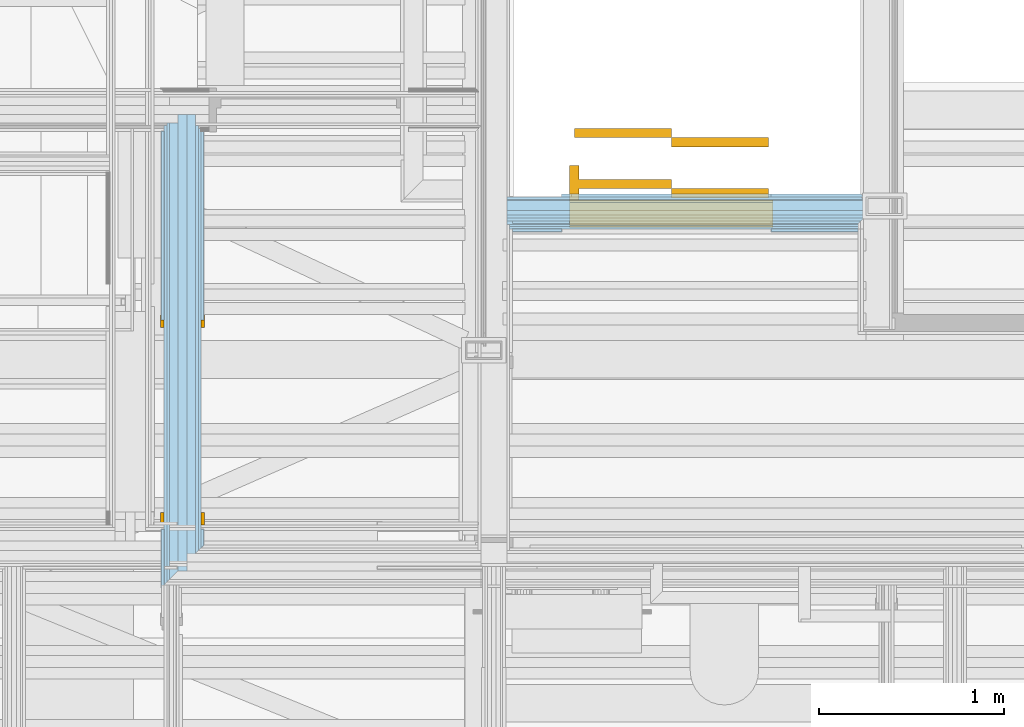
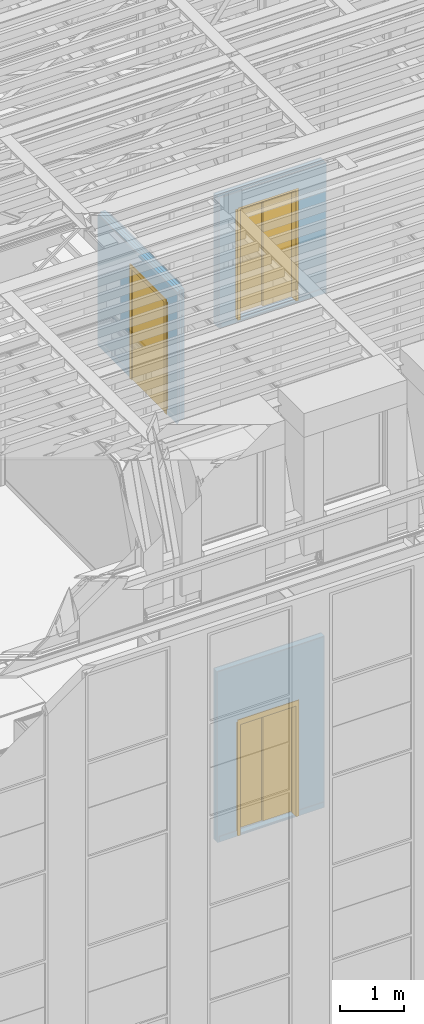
# One storey, part 101 of 183: 3 doors, 3 openings, 3 elements without a shape of their own, plus 21 elements that do not belong to this part.
"""IFC2X3 building model written with IfcOpenShell, lengths in metres."""

from ifc_helpers import new_model, entity, si_unit, converted_unit, derived_unit, money_unit, direction, frame, frame_2d, origin_with_axes, place, context, subcontext, project, spatial, polyline, rectangle, outline, extrude, faceted_brep, material, type_object, element, fill, aggregate, save


model = new_model("IFC2X3")

# Units and contexts
model_context = context("Model", 3, precision=1e-05, world=origin_with_axes(), true_north=direction((0.0, 1.0)))
body_context = subcontext(model_context, "Body", "Model", "MODEL_VIEW", scale=1.0)
ifc_project = project(units=[si_unit("LENGTHUNIT", "METRE"), si_unit("AREAUNIT", "SQUARE_METRE"), si_unit("VOLUMEUNIT", "CUBIC_METRE"), si_unit("ABSORBEDDOSEUNIT", "GRAY"), si_unit("AMOUNTOFSUBSTANCEUNIT", "MOLE"), si_unit("DOSEEQUIVALENTUNIT", "SIEVERT"), si_unit("ELECTRICCAPACITANCEUNIT", "FARAD"), si_unit("ELECTRICCHARGEUNIT", "COULOMB"), si_unit("ELECTRICCONDUCTANCEUNIT", "SIEMENS"), si_unit("ELECTRICCURRENTUNIT", "AMPERE"), si_unit("ELECTRICRESISTANCEUNIT", "OHM"), si_unit("ELECTRICVOLTAGEUNIT", "VOLT"), si_unit("ENERGYUNIT", "JOULE"), si_unit("FORCEUNIT", "NEWTON"), si_unit("FREQUENCYUNIT", "HERTZ"), si_unit("ILLUMINANCEUNIT", "LUX"), si_unit("INDUCTANCEUNIT", "HENRY"), si_unit("LUMINOUSFLUXUNIT", "LUMEN"), si_unit("LUMINOUSINTENSITYUNIT", "CANDELA"), si_unit("MAGNETICFLUXDENSITYUNIT", "TESLA"), si_unit("MAGNETICFLUXUNIT", "WEBER"), si_unit("MASSUNIT", "GRAM"), converted_unit("PLANEANGLEUNIT", "degree", entity("IfcReal", 0.0174532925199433), si_unit("PLANEANGLEUNIT", "RADIAN"), dimensions=[0, 0, 0, 0, 0, 0, 0]), si_unit("POWERUNIT", "WATT"), si_unit("PRESSUREUNIT", "PASCAL"), si_unit("RADIOACTIVITYUNIT", "BECQUEREL"), si_unit("SOLIDANGLEUNIT", "STERADIAN"), si_unit("THERMODYNAMICTEMPERATUREUNIT", "KELVIN"), si_unit("TIMEUNIT", "SECOND"), derived_unit("ACCELERATIONUNIT", [(si_unit("LENGTHUNIT", "METRE"), 1), (si_unit("TIMEUNIT", "SECOND"), -2)]), derived_unit("ANGULARVELOCITYUNIT", [(converted_unit("PLANEANGLEUNIT", "degree", entity("IfcReal", 0.0174532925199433), si_unit("PLANEANGLEUNIT", "RADIAN"), dimensions=[0, 0, 0, 0, 0, 0, 0]), 1), (si_unit("TIMEUNIT", "SECOND"), -1)]), derived_unit("CURVATUREUNIT", [(converted_unit("PLANEANGLEUNIT", "degree", entity("IfcReal", 0.0174532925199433), si_unit("PLANEANGLEUNIT", "RADIAN"), dimensions=[0, 0, 0, 0, 0, 0, 0]), 1), (si_unit("LENGTHUNIT", "METRE"), -1)]), derived_unit("DYNAMICVISCOSITYUNIT", [(si_unit("PRESSUREUNIT", "PASCAL"), 1), (si_unit("TIMEUNIT", "SECOND"), 1)]), derived_unit("HEATFLUXDENSITYUNIT", [(si_unit("POWERUNIT", "WATT"), 1), (si_unit("LENGTHUNIT", "METRE"), -2)]), derived_unit("HEATINGVALUEUNIT", [(si_unit("ENERGYUNIT", "JOULE"), 1), (si_unit("MASSUNIT", "GRAM"), -1)]), derived_unit("INTEGERCOUNTRATEUNIT", [(si_unit("TIMEUNIT", "SECOND"), -1)]), derived_unit("IONCONCENTRATIONUNIT", [(si_unit("MASSUNIT", "GRAM"), 1), (si_unit("VOLUMEUNIT", "CUBIC_METRE"), -1)]), derived_unit("ISOTHERMALMOISTURECAPACITYUNIT", [(si_unit("VOLUMEUNIT", "CUBIC_METRE"), 1), (si_unit("MASSUNIT", "GRAM"), -1)]), derived_unit("KINEMATICVISCOSITYUNIT", [(si_unit("AREAUNIT", "SQUARE_METRE"), 1), (si_unit("TIMEUNIT", "SECOND"), -1)]), derived_unit("LINEARFORCEUNIT", [(si_unit("FORCEUNIT", "NEWTON"), 1), (si_unit("LENGTHUNIT", "METRE"), -1)]), derived_unit("LINEARMOMENTUNIT", [(si_unit("FORCEUNIT", "NEWTON"), 1), (si_unit("LENGTHUNIT", "METRE"), -1)]), derived_unit("LINEARSTIFFNESSUNIT", [(si_unit("FORCEUNIT", "NEWTON"), 1), (si_unit("LENGTHUNIT", "METRE"), -1)]), derived_unit("LINEARVELOCITYUNIT", [(si_unit("LENGTHUNIT", "METRE"), 1), (si_unit("TIMEUNIT", "SECOND"), -1)]), derived_unit("LUMINOUSINTENSITYDISTRIBUTIONUNIT", [(si_unit("LUMINOUSINTENSITYUNIT", "CANDELA"), 1), (si_unit("LUMINOUSFLUXUNIT", "LUMEN"), -1)]), derived_unit("MASSDENSITYUNIT", [(si_unit("MASSUNIT", "GRAM"), 1), (si_unit("VOLUMEUNIT", "CUBIC_METRE"), -1)]), derived_unit("MASSFLOWRATEUNIT", [(si_unit("MASSUNIT", "GRAM"), 1), (si_unit("TIMEUNIT", "SECOND"), -1)]), derived_unit("MASSPERLENGTHUNIT", [(si_unit("MASSUNIT", "GRAM"), 1), (si_unit("LENGTHUNIT", "METRE"), -1)]), derived_unit("MODULUSOFELASTICITYUNIT", [(si_unit("FORCEUNIT", "NEWTON"), 1), (si_unit("AREAUNIT", "SQUARE_METRE"), -1)]), derived_unit("MODULUSOFLINEARSUBGRADEREACTIONUNIT", [(si_unit("FORCEUNIT", "NEWTON"), 1), (si_unit("LENGTHUNIT", "METRE"), -2)]), derived_unit("MODULUSOFROTATIONALSUBGRADEREACTIONUNIT", [(si_unit("FORCEUNIT", "NEWTON"), 1), (si_unit("LENGTHUNIT", "METRE"), 1)]), derived_unit("MODULUSOFSUBGRADEREACTIONUNIT", [(si_unit("FORCEUNIT", "NEWTON"), 1), (si_unit("VOLUMEUNIT", "CUBIC_METRE"), -1)]), derived_unit("MOISTUREDIFFUSIVITYUNIT", [(si_unit("VOLUMEUNIT", "CUBIC_METRE"), 1), (si_unit("TIMEUNIT", "SECOND"), -1)]), derived_unit("MOLECULARWEIGHTUNIT", [(si_unit("MASSUNIT", "GRAM"), 1), (si_unit("AMOUNTOFSUBSTANCEUNIT", "MOLE"), -1)]), derived_unit("PLANARFORCEUNIT", [(si_unit("FORCEUNIT", "NEWTON"), 1), (si_unit("LENGTHUNIT", "METRE"), -2)]), derived_unit("ROTATIONALFREQUENCYUNIT", [(si_unit("TIMEUNIT", "SECOND"), -1)]), derived_unit("ROTATIONALMASSUNIT", [(si_unit("MASSUNIT", "GRAM"), 1), (si_unit("LENGTHUNIT", "METRE"), 2)]), derived_unit("ROTATIONALSTIFFNESSUNIT", [(si_unit("FORCEUNIT", "NEWTON"), 1), (si_unit("LENGTHUNIT", "METRE"), 1), (converted_unit("PLANEANGLEUNIT", "degree", entity("IfcReal", 0.0174532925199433), si_unit("PLANEANGLEUNIT", "RADIAN"), dimensions=[0, 0, 0, 0, 0, 0, 0]), -1)]), derived_unit("SECTIONAREAINTEGRALUNIT", [(si_unit("LENGTHUNIT", "METRE"), 5)]), derived_unit("SECTIONMODULUSUNIT", [(si_unit("LENGTHUNIT", "METRE"), 3)]), derived_unit("SHEARMODULUSUNIT", [(si_unit("FORCEUNIT", "NEWTON"), 1), (si_unit("AREAUNIT", "SQUARE_METRE"), -1)]), derived_unit("SOUNDPOWERUNIT", [(si_unit("ENERGYUNIT", "JOULE"), 1), (si_unit("TIMEUNIT", "SECOND"), -1)]), derived_unit("SPECIFICHEATCAPACITYUNIT", [(si_unit("FORCEUNIT", "NEWTON"), 1), (si_unit("MASSUNIT", "GRAM"), -1), (si_unit("THERMODYNAMICTEMPERATUREUNIT", "KELVIN"), -1)]), derived_unit("TEMPERATUREGRADIENTUNIT", [(si_unit("THERMODYNAMICTEMPERATUREUNIT", "KELVIN"), 1), (si_unit("LENGTHUNIT", "METRE"), -1)]), derived_unit("THERMALADMITTANCEUNIT", [(si_unit("POWERUNIT", "WATT"), 1), (si_unit("AREAUNIT", "SQUARE_METRE"), -1), (si_unit("THERMODYNAMICTEMPERATUREUNIT", "KELVIN"), -1)]), derived_unit("THERMALCONDUCTANCEUNIT", [(si_unit("POWERUNIT", "WATT"), 1), (si_unit("LENGTHUNIT", "METRE"), -1), (si_unit("THERMODYNAMICTEMPERATUREUNIT", "KELVIN"), -1)]), derived_unit("THERMALEXPANSIONCOEFFICIENTUNIT", [(si_unit("THERMODYNAMICTEMPERATUREUNIT", "KELVIN"), -1)]), derived_unit("THERMALRESISTANCEUNIT", [(si_unit("AREAUNIT", "SQUARE_METRE"), 1), (si_unit("POWERUNIT", "WATT"), -1)]), derived_unit("THERMALTRANSMITTANCEUNIT", [(si_unit("POWERUNIT", "WATT"), 1), (si_unit("AREAUNIT", "SQUARE_METRE"), -1), (si_unit("THERMODYNAMICTEMPERATUREUNIT", "KELVIN"), -1)]), derived_unit("TORQUEUNIT", [(si_unit("FORCEUNIT", "NEWTON"), 1), (si_unit("LENGTHUNIT", "METRE"), 1)]), derived_unit("VAPORPERMEABILITYUNIT", [(si_unit("MASSUNIT", "GRAM"), 1), (si_unit("TIMEUNIT", "SECOND"), -1)]), derived_unit("VOLUMETRICFLOWRATEUNIT", [(si_unit("VOLUMEUNIT", "CUBIC_METRE"), 1), (si_unit("TIMEUNIT", "SECOND"), -1)]), derived_unit("WARPINGCONSTANTUNIT", [(si_unit("LENGTHUNIT", "METRE"), 6)]), derived_unit("WARPINGMOMENTUNIT", [(si_unit("FORCEUNIT", "NEWTON"), 1), (si_unit("LENGTHUNIT", "METRE"), 2)]), money_unit("GBP")], contexts=[model_context])

# Site, building, storey, space
site_placement = place(None, origin_with_axes())
site = spatial("IfcSite", under=ifc_project, at=site_placement, Name="Site", CompositionType="ELEMENT")
building_placement = place(site_placement, origin_with_axes())
building = spatial("IfcBuilding", under=site, at=building_placement, Name="Building01", CompositionType="ELEMENT")
storey_placement = place(building_placement, frame((0.0, 0.0, 5.15), z_axis=(0.0, 0.0, 1.0), x_axis=(1.0, 0.0, 0.0)))
storey = spatial("IfcBuildingStorey", under=building, at=storey_placement, Name="1F", CompositionType="ELEMENT", Elevation=5.15)
space_1_placement = place(storey_placement, frame((9.548928, 7.163933, 0.017932), z_axis=(0.0, 0.0, 1.0), x_axis=(1.0, 0.0, 0.0)))
space_1 = spatial("IfcSpace", under=storey, at=space_1_placement, Name="firef. LIFT", CompositionType="ELEMENT", InteriorOrExteriorSpace="NOTDEFINED")

# Door
ifc_material_1 = material(Name="A_BSUK_Doors")
door_style_1 = type_object("IfcDoorStyle", Name="A-ElevatorDoor-2Speed", ConstructionType="USERDEFINED", OperationType="USERDEFINED", ParameterTakesPrecedence=False, Sizeable=False)
wall_1_placement = place(storey_placement, frame((11.145, 6.965, 0.0), z_axis=(0.0, 0.0, 1.0), x_axis=(-1.0, 0.0, 0.0)))
opening_1_placement = place(wall_1_placement, frame((0.5, -0.03, 0.03), z_axis=(0.0, 0.0, 1.0), x_axis=(1.0, 0.0, 0.0)))
door_1_placement = place(opening_1_placement, frame((1.04, 0.17, 0.0), z_axis=(0.0, 0.0, 1.0), x_axis=(-1.0, 0.0, 0.0)))
door_1 = element("IfcDoor", 1, at=door_1_placement, inside=space_1, type_object=door_style_1, material=ifc_material_1, Name="A-ElevatorDoor-2Speed", ObjectType="A-ElevatorDoor-2Speed", OverallHeight=2.14000000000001, OverallWidth=1.13330201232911, context=body_context, shape_type="Brep", body=[
    faceted_brep([(1.05, 0.0, 0.0), (1.05, 0.0, 2.1), (1.05, -0.012, 2.1), (1.05, -0.012, 0.0), (1.0, -0.012, 0.0), (1.0, -0.012, 2.1), (1.0, 0.137, 2.1), (1.0, 0.137, 0.0), (1.05, 0.137, 2.1), (1.05, 0.137, 0.0), (1.05, 0.125, 2.1), (1.05, 0.125, 0.0), (1.04, 0.125, 2.1), (1.04, 0.125, 0.0), (1.04, 0.0, 2.1), (1.04, 0.0, 0.0)], [[[0, 1, 2, 3]], [[4, 5, 6, 7]], [[7, 6, 8, 9]], [[9, 8, 10, 11]], [[11, 10, 12, 13]], [[13, 12, 14, 15]], [[15, 14, 1, 0]], [[3, 4, 7, 9, 11, 13, 15, 0]], [[3, 2, 5, 4]], [[1, 14, 12, 10, 8, 6, 5, 2]]]),
    faceted_brep([(1.05, 0.0, 2.2), (-0.05, 0.0, 2.2), (-0.05, -0.012, 2.2), (1.05, -0.012, 2.2), (1.05, -0.012, 2.1), (-0.05, -0.012, 2.1), (-0.05, 0.137, 2.1), (1.05, 0.137, 2.1), (-0.05, 0.137, 2.2), (1.05, 0.137, 2.2), (-0.05, 0.125, 2.2), (1.05, 0.125, 2.2), (-0.05, 0.125, 2.14), (1.05, 0.125, 2.14), (-0.05, 0.0, 2.14), (1.05, 0.0, 2.14)], [[[0, 1, 2, 3]], [[4, 5, 6, 7]], [[7, 6, 8, 9]], [[9, 8, 10, 11]], [[11, 10, 12, 13]], [[13, 12, 14, 15]], [[15, 14, 1, 0]], [[3, 4, 7, 9, 11, 13, 15, 0]], [[3, 2, 5, 4]], [[1, 14, 12, 10, 8, 6, 5, 2]]]),
    faceted_brep([(-0.05, 0.0, 2.1), (-0.05, 0.0, 0.0), (-0.05, -0.012, 0.0), (-0.05, -0.012, 2.1), (0.0, -0.012, 2.1), (0.0, -0.012, 0.0), (0.0, 0.137, 0.0), (0.0, 0.137, 2.1), (-0.05, 0.137, 0.0), (-0.05, 0.137, 2.1), (-0.05, 0.125, 0.0), (-0.05, 0.125, 2.1), (-0.04, 0.125, 0.0), (-0.04, 0.125, 2.1), (-0.04, 0.0, 0.0), (-0.04, 0.0, 2.1)], [[[0, 1, 2, 3]], [[4, 5, 6, 7]], [[7, 6, 8, 9]], [[9, 8, 10, 11]], [[11, 10, 12, 13]], [[13, 12, 14, 15]], [[15, 14, 1, 0]], [[3, 4, 7, 9, 11, 13, 15, 0]], [[3, 2, 5, 4]], [[1, 14, 12, 10, 8, 6, 5, 2]]]),
    faceted_brep([(-0.025, 0.25, 2.125), (-0.025, 0.2, 2.125), (0.5, 0.2, 2.125), (0.5, 0.25, 2.125), (0.5, 0.25, -0.025), (0.5, 0.2, -0.025), (-0.025, 0.2, -0.025), (-0.025, 0.25, -0.025)], [[[0, 1, 2, 3]], [[4, 5, 6, 7]], [[7, 6, 1, 0]], [[3, 4, 7, 0]], [[3, 2, 5, 4]], [[1, 6, 5, 2]]]),
    faceted_brep([(-0.025, 0.5254, 2.125), (-0.025, 0.4754, 2.125), (0.5, 0.4754, 2.125), (0.5, 0.5254, 2.125), (0.5, 0.5254, -0.0594), (0.5, 0.4754, -0.0594), (-0.025, 0.4754, -0.0594), (-0.025, 0.5254, -0.0594)], [[[0, 1, 2, 3]], [[4, 5, 6, 7]], [[7, 6, 1, 0]], [[3, 4, 7, 0]], [[3, 2, 5, 4]], [[1, 6, 5, 2]]]),
    faceted_brep([(1.025, 0.4254, 2.125), (1.025, 0.4754, 2.125), (0.5, 0.4754, 2.125), (0.5, 0.4254, 2.125), (0.5, 0.4254, -0.025), (0.5, 0.4754, -0.025), (1.025, 0.4754, -0.025), (1.025, 0.4254, -0.025)], [[[0, 1, 2, 3]], [[4, 5, 6, 7]], [[7, 6, 1, 0]], [[3, 4, 7, 0]], [[3, 2, 5, 4]], [[1, 6, 5, 2]]]),
    faceted_brep([(1.025, 0.15, 2.125), (1.025, 0.2, 2.125), (0.5, 0.2, 2.125), (0.5, 0.15, 2.125), (0.5, 0.15, -0.025), (0.5, 0.2, -0.025), (1.025, 0.2, -0.025), (1.025, 0.15, -0.025)], [[[0, 1, 2, 3]], [[4, 5, 6, 7]], [[7, 6, 1, 0]], [[3, 4, 7, 0]], [[3, 2, 5, 4]], [[1, 6, 5, 2]]]),
    faceted_brep([(0.0, 0.137, 2.125), (0.0, 0.137, 0.0), (0.0, 0.3246, 0.0), (0.0, 0.3246, 2.125), (-0.05, 0.3246, 2.125), (-0.05, 0.3246, 0.0), (-0.05, 0.137, 0.0), (-0.05, 0.137, 2.125)], [[[0, 1, 2, 3]], [[4, 5, 6, 7]], [[7, 6, 1, 0]], [[3, 4, 7, 0]], [[3, 2, 5, 4]], [[1, 6, 5, 2]]]),
])

# Space
space_2_placement = place(storey_placement, frame((9.548928, 7.163933, 9.81), z_axis=(0.0, 0.0, 1.0), x_axis=(1.0, 0.0, 0.0)))
space_2 = spatial("IfcSpace", under=storey, at=space_2_placement, Name="firef. LIFT", CompositionType="ELEMENT", InteriorOrExteriorSpace="NOTDEFINED")

# Door
wall_3_placement = place(storey_placement, frame((11.145, 6.907, 9.78), z_axis=(0.0, 0.0, 1.0), x_axis=(-1.0, 0.0, 0.0)))
opening_3_placement = place(wall_3_placement, frame((0.5, -0.073, 0.015), z_axis=(0.0, 0.0, 1.0), x_axis=(1.0, 0.0, 0.0)))
door_2_placement = place(opening_3_placement, frame((1.04, 0.155, 0.015), z_axis=(0.0, 0.0, 1.0), x_axis=(-1.0, 0.0, 0.0)))
door_2 = element("IfcDoor", 2, at=door_2_placement, inside=space_2, type_object=door_style_1, material=ifc_material_1, Name="A-ElevatorDoor-2Speed", ObjectType="A-ElevatorDoor-2Speed", OverallHeight=2.155, OverallWidth=1.1333020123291, context=body_context, shape_type="Brep", body=[
    faceted_brep([(1.05, 0.0, 0.0), (1.05, 0.0, 2.1), (1.05, -0.012, 2.1), (1.05, -0.012, 0.0), (1.0, -0.012, 0.0), (1.0, -0.012, 2.1), (1.0, 0.137, 2.1), (1.0, 0.137, 0.0), (1.05, 0.137, 2.1), (1.05, 0.137, 0.0), (1.05, 0.125, 2.1), (1.05, 0.125, 0.0), (1.04, 0.125, 2.1), (1.04, 0.125, 0.0), (1.04, 0.0, 2.1), (1.04, 0.0, 0.0)], [[[0, 1, 2, 3]], [[4, 5, 6, 7]], [[7, 6, 8, 9]], [[9, 8, 10, 11]], [[11, 10, 12, 13]], [[13, 12, 14, 15]], [[15, 14, 1, 0]], [[3, 4, 7, 9, 11, 13, 15, 0]], [[3, 2, 5, 4]], [[1, 14, 12, 10, 8, 6, 5, 2]]]),
    faceted_brep([(1.05, 0.0, 2.2), (-0.05, 0.0, 2.2), (-0.05, -0.012, 2.2), (1.05, -0.012, 2.2), (1.05, -0.012, 2.1), (-0.05, -0.012, 2.1), (-0.05, 0.137, 2.1), (1.05, 0.137, 2.1), (-0.05, 0.137, 2.2), (1.05, 0.137, 2.2), (-0.05, 0.125, 2.2), (1.05, 0.125, 2.2), (-0.05, 0.125, 2.14), (1.05, 0.125, 2.14), (-0.05, 0.0, 2.14), (1.05, 0.0, 2.14)], [[[0, 1, 2, 3]], [[4, 5, 6, 7]], [[7, 6, 8, 9]], [[9, 8, 10, 11]], [[11, 10, 12, 13]], [[13, 12, 14, 15]], [[15, 14, 1, 0]], [[3, 4, 7, 9, 11, 13, 15, 0]], [[3, 2, 5, 4]], [[1, 14, 12, 10, 8, 6, 5, 2]]]),
    faceted_brep([(-0.05, 0.0, 2.1), (-0.05, 0.0, 0.0), (-0.05, -0.012, 0.0), (-0.05, -0.012, 2.1), (0.0, -0.012, 2.1), (0.0, -0.012, 0.0), (0.0, 0.137, 0.0), (0.0, 0.137, 2.1), (-0.05, 0.137, 0.0), (-0.05, 0.137, 2.1), (-0.05, 0.125, 0.0), (-0.05, 0.125, 2.1), (-0.04, 0.125, 0.0), (-0.04, 0.125, 2.1), (-0.04, 0.0, 0.0), (-0.04, 0.0, 2.1)], [[[0, 1, 2, 3]], [[4, 5, 6, 7]], [[7, 6, 8, 9]], [[9, 8, 10, 11]], [[11, 10, 12, 13]], [[13, 12, 14, 15]], [[15, 14, 1, 0]], [[3, 4, 7, 9, 11, 13, 15, 0]], [[3, 2, 5, 4]], [[1, 14, 12, 10, 8, 6, 5, 2]]]),
    faceted_brep([(-0.025, 0.25, 2.125), (-0.025, 0.2, 2.125), (0.5, 0.2, 2.125), (0.5, 0.25, 2.125), (0.5, 0.25, -0.025), (0.5, 0.2, -0.025), (-0.025, 0.2, -0.025), (-0.025, 0.25, -0.025)], [[[0, 1, 2, 3]], [[4, 5, 6, 7]], [[7, 6, 1, 0]], [[3, 4, 7, 0]], [[3, 2, 5, 4]], [[1, 6, 5, 2]]]),
    faceted_brep([(-0.025, 0.5254, 2.125), (-0.025, 0.4754, 2.125), (0.5, 0.4754, 2.125), (0.5, 0.5254, 2.125), (0.5, 0.5254, -0.0594), (0.5, 0.4754, -0.0594), (-0.025, 0.4754, -0.0594), (-0.025, 0.5254, -0.0594)], [[[0, 1, 2, 3]], [[4, 5, 6, 7]], [[7, 6, 1, 0]], [[3, 4, 7, 0]], [[3, 2, 5, 4]], [[1, 6, 5, 2]]]),
    faceted_brep([(1.025, 0.4254, 2.125), (1.025, 0.4754, 2.125), (0.5, 0.4754, 2.125), (0.5, 0.4254, 2.125), (0.5, 0.4254, -0.025), (0.5, 0.4754, -0.025), (1.025, 0.4754, -0.025), (1.025, 0.4254, -0.025)], [[[0, 1, 2, 3]], [[4, 5, 6, 7]], [[7, 6, 1, 0]], [[3, 4, 7, 0]], [[3, 2, 5, 4]], [[1, 6, 5, 2]]]),
    faceted_brep([(1.025, 0.15, 2.125), (1.025, 0.2, 2.125), (0.5, 0.2, 2.125), (0.5, 0.15, 2.125), (0.5, 0.15, -0.025), (0.5, 0.2, -0.025), (1.025, 0.2, -0.025), (1.025, 0.15, -0.025)], [[[0, 1, 2, 3]], [[4, 5, 6, 7]], [[7, 6, 1, 0]], [[3, 4, 7, 0]], [[3, 2, 5, 4]], [[1, 6, 5, 2]]]),
    faceted_brep([(0.0, 0.137, 2.125), (0.0, 0.137, 0.0), (0.0, 0.3246, 0.0), (0.0, 0.3246, 2.125), (-0.05, 0.3246, 2.125), (-0.05, 0.3246, 0.0), (-0.05, 0.137, 0.0), (-0.05, 0.137, 2.125)], [[[0, 1, 2, 3]], [[4, 5, 6, 7]], [[7, 6, 1, 0]], [[3, 4, 7, 0]], [[3, 2, 5, 4]], [[1, 6, 5, 2]]]),
])

# Space
space_3_placement = place(storey_placement, frame((3.119976, 4.859939, 9.81), z_axis=(0.0, 0.0, 1.0), x_axis=(1.0, 0.0, 0.0)))
space_3 = spatial("IfcSpace", under=storey, at=space_3_placement, Name="corridor (protected)", CompositionType="ELEMENT", InteriorOrExteriorSpace="NOTDEFINED")

# Door
door_style_2 = type_object("IfcDoorStyle", Name="A-Doors-SingleFlush", ConstructionType="USERDEFINED", OperationType="SINGLE_SWING_RIGHT", ParameterTakesPrecedence=False, Sizeable=False)
wall_2_placement = place(storey_placement, frame((7.435, 7.425061, 9.78), z_axis=(0.0, 0.0, 1.0), x_axis=(0.0, -1.0, 0.0)))
opening_2_placement = place(wall_2_placement, frame((1.111061, -0.09, 0.0), z_axis=(0.0, 0.0, 1.0), x_axis=(1.0, 0.0, 0.0)))
door_3_placement = place(opening_2_placement, frame((1.042, 0.015, 0.0), z_axis=(0.0, 0.0, 1.0), x_axis=(-1.0, 0.0, 0.0)))
door_3 = element("IfcDoor", 3, at=door_3_placement, inside=space_3, type_object=door_style_2, material=ifc_material_1, Name="4.18", ObjectType="A-Doors-SingleFlush", OverallHeight=2.142, OverallWidth=1.134, context=body_context, shape_type="Brep", body=[
    faceted_brep([(1.0, -0.219, 0.0), (1.069, -0.219, 0.0), (1.069, -0.219, 2.169), (-0.069, -0.219, 2.169), (-0.069, -0.219, 0.0), (0.0, -0.219, 0.0), (0.0, -0.219, 2.1), (1.0, -0.219, 2.1), (-0.069, -0.2, 0.0), (-0.069, -0.2, 2.169), (1.069, -0.2, 2.169), (1.069, -0.2, 0.0), (1.0, 0.019, 0.0), (1.069, 0.019, 0.0), (1.069, 0.0, 0.0), (1.042, 0.0, 0.0), (1.042, -0.2, 0.0), (1.0, 0.019, 2.1), (0.0, 0.019, 2.1), (0.0, 0.019, 0.0), (-0.069, 0.019, 0.0), (-0.069, 0.019, 2.169), (1.069, 0.019, 2.169), (1.069, 0.0, 2.169), (1.042, -0.2, 2.142), (1.042, 0.0, 2.142), (-0.042, -0.2, 2.142), (-0.042, 0.0, 2.142), (-0.042, -0.2, 0.0), (-0.042, 0.0, 0.0), (-0.069, 0.0, 2.169), (-0.069, 0.0, 0.0)], [[[0, 1, 2, 3, 4, 5, 6, 7]], [[8, 4, 3, 9]], [[10, 2, 1, 11]], [[9, 3, 2, 10]], [[12, 13, 14, 15, 16, 11, 1, 0]], [[7, 17, 12, 0]], [[6, 18, 17, 7]], [[18, 19, 20, 21, 22, 13, 12, 17]], [[5, 19, 18, 6]], [[13, 22, 23, 14]], [[24, 16, 15, 25]], [[26, 24, 25, 27]], [[11, 16, 24, 26, 28, 8, 9, 10]], [[27, 29, 28, 26]], [[25, 15, 14, 23, 30, 31, 29, 27]], [[5, 4, 8, 28, 29, 31, 20, 19]], [[30, 21, 20, 31]], [[23, 22, 21, 30]]]),
    faceted_brep([(0.0, -0.09, 2.1), (0.0, -0.04, 2.1), (0.0, -0.04, 0.0), (0.0, -0.09, 0.0), (0.975, -0.09, 0.0), (1.0, -0.09, 0.0), (1.0, -0.09, 2.1), (0.025, -0.09, 0.0), (0.025, -0.09, 2.075), (0.975, -0.09, 2.075), (0.975, -0.04, 0.0), (1.0, -0.04, 0.0), (1.0, -0.04, 2.1), (0.025, -0.04, 2.075), (0.025, -0.04, 0.0), (0.975, -0.04, 2.075)], [[[0, 1, 2, 3]], [[4, 5, 6, 0, 3, 7, 8, 9]], [[10, 11, 5, 4]], [[6, 12, 1, 0]], [[5, 11, 12, 6]], [[13, 14, 2, 1, 12, 11, 10, 15]], [[7, 14, 13, 8]], [[7, 3, 2, 14]], [[9, 15, 10, 4]], [[8, 13, 15, 9]]]),
    faceted_brep([(1.0, -0.04, 0.0), (1.0, 0.0, 0.0), (1.0, 0.0, 2.1), (1.0, -0.04, 2.1), (0.0, -0.04, 2.1), (0.0, 0.0, 2.1), (0.0, 0.0, 0.0), (0.0, -0.04, 0.0)], [[[0, 1, 2, 3]], [[4, 5, 6, 7]], [[7, 6, 1, 0]], [[3, 4, 7, 0]], [[3, 2, 5, 4]], [[1, 6, 5, 2]]]),
])

# Wall, opening
wall_type_1 = type_object("IfcWallType", Name="SHE_A-Walls_Type04a_BlockworkWall_130mm", PredefinedType="NOTDEFINED")
wall_1 = element("IfcWall", 4, at=wall_1_placement, inside=storey, type_object=wall_type_1, Name="4A", ObjectType="SHE_A-Walls_Type04a_BlockworkWall_130mm")
opening_1 = element("IfcOpeningElement", 5, at=opening_1_placement, cuts=wall_1, Name="Opening", ObjectType="Opening", context=body_context, shape_type="SweptSolid", body=[
    extrude(rectangle(XDim=2.14, YDim=1.08, at=frame_2d((-0.54, 1.07), x_axis=(0.0, 1.0))), frame((0.0, 0.0, 0.0), z_axis=(0.0, 1.0, 0.0), x_axis=(-1.0, 0.0, 0.0)), (0.0, 0.0, 1.0), 0.16),
    extrude(rectangle(XDim=1.133302, YDim=2.14, at=frame_2d((-0.566651, 1.07), x_axis=(-1.0, 0.0))), frame((0.0, 0.015, 0.0), z_axis=(0.0, 1.0, 0.0), x_axis=(-1.0, 0.0, 0.0)), (0.0, 0.0, 1.0), 0.015),
    extrude(rectangle(XDim=2.14, YDim=1.09, at=frame_2d((-0.545, 1.07), x_axis=(0.0, -1.0))), frame((0.0, 0.03, 0.0), z_axis=(0.0, 1.0, 0.0), x_axis=(-1.0, 0.0, 0.0)), (0.0, 0.0, 1.0), 0.1),
    extrude(rectangle(XDim=2.14, YDim=1.09, at=frame_2d((-0.545, 1.07), x_axis=(0.0, -1.0))), frame((0.0, 0.13, 0.0), z_axis=(0.0, 1.0, 0.0), x_axis=(-1.0, 0.0, 0.0)), (0.0, 0.0, 1.0), 0.015),
    extrude(rectangle(XDim=2.14, YDim=1.09, at=frame_2d((-0.545, 1.07), x_axis=(0.0, -1.0))), frame((0.0, 0.145, 0.0), z_axis=(0.0, 1.0, 0.0), x_axis=(-1.0, 0.0, 0.0)), (0.0, 0.0, 1.0), 0.015),
])

fill(opening_1, door_1)

# Building element part
ifc_material_2 = material(Name="A_BSUK_Walls_Timber")
placement_1 = place(wall_1_placement, origin_with_axes())
building_element_part_1 = element("IfcBuildingElementPart", 6, at=placement_1, material=ifc_material_2, Name="1", context=body_context, shape_type="SweptSolid", body=[
    extrude(outline(polyline([(0.0, -0.015), (0.015, -0.03), (1.633302, -0.03), (1.633302, -0.015), (0.0, -0.015)])), frame((0.0, 0.0, 0.015), z_axis=(0.0, 0.0, 1.0), x_axis=(1.0, 0.0, 0.0)), (0.0, 0.0, 1.0), 0.1),
])

ifc_material_3 = material(Name="A_BSUK_WallInternal_Finishes_Plasterboard")
building_element_part_2 = element("IfcBuildingElementPart", 7, at=placement_1, material=ifc_material_3, Name="2", context=body_context, shape_type="SweptSolid", body=[
    extrude(outline(polyline([(1.93, 0.0), (0.0, 0.0), (0.015, -0.015), (1.93, -0.015), (1.93, 0.0)])), origin_with_axes(), (0.0, 0.0, 1.0), 3.24),
])

ifc_material_4 = material(Name="A_BSUK_WallsInternal_Block")
building_element_part_3 = element("IfcBuildingElementPart", 8, at=placement_1, material=ifc_material_4, Name="3", context=body_context, shape_type="SweptSolid", body=[
    extrude(rectangle(XDim=1.93, YDim=0.1, at=frame_2d((0.965, 0.05), x_axis=(-1.0, 0.0))), origin_with_axes(), (0.0, 0.0, 1.0), 3.24),
])

ifc_material_5 = material(Name="A_BSUK_WallInternal_Finishes_Plaster")
building_element_part_4 = element("IfcBuildingElementPart", 9, at=placement_1, material=ifc_material_5, Name="4", context=body_context, shape_type="SweptSolid", body=[
    extrude(outline(polyline([(1.93, 0.115), (0.015, 0.115), (0.0, 0.1), (1.93, 0.1), (1.93, 0.115)])), origin_with_axes(), (0.0, 0.0, 1.0), 3.24),
])

building_element_part_5 = element("IfcBuildingElementPart", 10, at=placement_1, material=ifc_material_2, Name="5", context=body_context, shape_type="SweptSolid", body=[
    extrude(outline(polyline([(1.9, 0.13), (0.03, 0.13), (0.015, 0.115), (1.9, 0.115), (1.9, 0.13)])), frame((0.0, 0.0, 0.015), z_axis=(0.0, 0.0, 1.0), x_axis=(1.0, 0.0, 0.0)), (0.0, 0.0, 1.0), 0.1),
])

aggregate(wall_1, [building_element_part_1, building_element_part_2, building_element_part_3, building_element_part_4, building_element_part_5])

# Wall, opening
wall_type_2 = type_object("IfcWallType", Name="SHE_A-Walls_Type01d_Partywall_200mm_twin", PredefinedType="NOTDEFINED")
wall_2 = element("IfcWall", 11, at=wall_2_placement, inside=storey, type_object=wall_type_2, Name="1D", ObjectType="SHE_A-Walls_Type01d_Partywall_200mm_twin")
opening_2 = element("IfcOpeningElement", 12, at=opening_2_placement, cuts=wall_2, Name="Opening", ObjectType="Opening", context=body_context, shape_type="SweptSolid", body=[
    extrude(rectangle(XDim=1.134, YDim=2.142, at=frame_2d((-0.567, 1.071), x_axis=(-1.0, 0.0))), frame((0.0, 0.0, 0.0), z_axis=(0.0, 1.0, 0.0), x_axis=(-1.0, 0.0, 0.0)), (0.0, 0.0, 1.0), 0.23),
])

fill(opening_2, door_3)

# Building element part
placement_2 = place(wall_2_placement, origin_with_axes())
building_element_part_6 = element("IfcBuildingElementPart", 13, at=placement_2, material=ifc_material_2, Name="1", context=body_context, shape_type="SweptSolid", body=[
    extrude(outline(polyline([(2.545061, -0.075), (0.09, -0.075), (0.09, -0.09), (2.560061, -0.09), (2.545061, -0.075)])), frame((0.0, 0.0, 0.015), z_axis=(0.0, 0.0, 1.0), x_axis=(1.0, 0.0, 0.0)), (0.0, 0.0, 1.0), 0.1),
])

building_element_part_7 = element("IfcBuildingElementPart", 14, at=placement_2, material=ifc_material_3, Name="2", context=body_context, shape_type="SweptSolid", body=[
    extrude(outline(polyline([(2.530061, -0.06), (0.060121, -0.06), (0.060121, -0.075), (2.545061, -0.075), (2.530061, -0.06)])), origin_with_axes(), (0.0, 0.0, 1.0), 2.468),
])

building_element_part_8 = element("IfcBuildingElementPart", 15, at=placement_2, material=ifc_material_3, Name="3", context=body_context, shape_type="SweptSolid", body=[
    extrude(outline(polyline([(2.515061, -0.045), (0.045121, -0.045), (0.045121, -0.06), (2.530061, -0.06), (2.515061, -0.045)])), origin_with_axes(), (0.0, 0.0, 1.0), 2.468),
])

ifc_material_6 = material(Name="Air Cavity")
building_element_part_9 = element("IfcBuildingElementPart", 16, at=placement_2, material=ifc_material_6, Name="4", context=body_context, shape_type="SweptSolid", body=[
    extrude(outline(polyline([(2.470061, 0.0), (0.045121, 0.0), (0.045121, -0.045), (2.515061, -0.045), (2.470061, 0.0)])), origin_with_axes(), (0.0, 0.0, 1.0), 2.468),
])

ifc_material_7 = material(Name="A_BSUK_Insulation")
building_element_part_10 = element("IfcBuildingElementPart", 17, at=placement_2, material=ifc_material_7, Name="5", context=body_context, shape_type="SweptSolid", body=[
    extrude(rectangle(XDim=2.470061, YDim=0.05, at=frame_2d((1.23503, 0.025), x_axis=(-1.0, 0.0))), origin_with_axes(), (0.0, 0.0, 1.0), 2.468),
])

building_element_part_11 = element("IfcBuildingElementPart", 18, at=placement_2, material=ifc_material_6, Name="6", context=body_context, shape_type="SweptSolid", body=[
    extrude(rectangle(XDim=2.470061, YDim=0.045, at=frame_2d((1.23503, 0.0725), x_axis=(-1.0, 0.0))), origin_with_axes(), (0.0, 0.0, 1.0), 2.468),
])

building_element_part_12 = element("IfcBuildingElementPart", 19, at=placement_2, material=ifc_material_3, Name="7", context=body_context, shape_type="SweptSolid", body=[
    extrude(outline(polyline([(2.360061, 0.11), (0.060121, 0.11), (0.060121, 0.095), (2.375061, 0.095), (2.360061, 0.11)])), origin_with_axes(), (0.0, 0.0, 1.0), 2.468),
])

building_element_part_13 = element("IfcBuildingElementPart", 20, at=placement_2, material=ifc_material_3, Name="8", context=body_context, shape_type="SweptSolid", body=[
    extrude(outline(polyline([(2.345061, 0.125), (0.075121, 0.125), (0.075121, 0.11), (2.360061, 0.11), (2.345061, 0.125)])), origin_with_axes(), (0.0, 0.0, 1.0), 2.468),
])

building_element_part_14 = element("IfcBuildingElementPart", 21, at=placement_2, material=ifc_material_2, Name="9", context=body_context, shape_type="SweptSolid", body=[
    extrude(outline(polyline([(2.330061, 0.14), (0.090121, 0.14), (0.090121, 0.125), (2.345061, 0.125), (2.330061, 0.14)])), frame((0.0, 0.0, 0.015), z_axis=(0.0, 0.0, 1.0), x_axis=(1.0, 0.0, 0.0)), (0.0, 0.0, 1.0), 0.1),
])

aggregate(wall_2, [building_element_part_6, building_element_part_7, building_element_part_8, building_element_part_9, building_element_part_10, building_element_part_11, building_element_part_12, building_element_part_13, building_element_part_14])

# Wall, opening
wall_type_3 = type_object("IfcWallType", Name="SHE_A-Walls_Type02b_LiftShaftWall_173mm", PredefinedType="NOTDEFINED")
wall_3 = element("IfcWall", 22, at=wall_3_placement, inside=storey, type_object=wall_type_3, Name="2B", ObjectType="SHE_A-Walls_Type02b_LiftShaftWall_173mm")
opening_3 = element("IfcOpeningElement", 23, at=opening_3_placement, cuts=wall_3, Name="Opening", ObjectType="Opening", context=body_context, shape_type="SweptSolid", body=[
    extrude(rectangle(XDim=1.133302, YDim=2.14, at=frame_2d((-0.566651, 1.07), x_axis=(-1.0, 0.0))), frame((0.0, 0.0, 0.0), z_axis=(0.0, 1.0, 0.0), x_axis=(-1.0, 0.0, 0.0)), (0.0, 0.0, 1.0), 0.188),
    extrude(outline(polyline([(0.0, 2.155), (-1.08, 2.155), (-1.08, 2.14), (-1.133302, 2.14), (-1.133302, 0.0), (0.0, 0.0), (0.0, 2.155)])), frame((0.0, 0.0, 0.0), z_axis=(0.0, 1.0, 0.0), x_axis=(-1.0, 0.0, 0.0)), (0.0, 0.0, 1.0), 0.173),
])

fill(opening_3, door_2)

# Building element part
placement_3 = place(wall_3_placement, origin_with_axes())
building_element_part_15 = element("IfcBuildingElementPart", 24, at=placement_3, material=ifc_material_3, Name="1", context=body_context, shape_type="SweptSolid", body=[
    extrude(rectangle(XDim=1.93, YDim=0.019, at=frame_2d((0.965, -0.0635), x_axis=(-1.0, 0.0))), origin_with_axes(), (0.0, 0.0, 1.0), 2.473),
])

building_element_part_16 = element("IfcBuildingElementPart", 25, at=placement_3, material=ifc_material_6, Name="2", context=body_context, shape_type="SweptSolid", body=[
    extrude(rectangle(XDim=1.93, YDim=0.054, at=frame_2d((0.965, -0.027), x_axis=(-1.0, 0.0))), origin_with_axes(), (0.0, 0.0, 1.0), 2.473),
])

building_element_part_17 = element("IfcBuildingElementPart", 26, at=placement_3, material=ifc_material_7, Name="3", context=body_context, shape_type="SweptSolid", body=[
    extrude(rectangle(XDim=1.93, YDim=0.025, at=frame_2d((0.965, 0.0125), x_axis=(-1.0, 0.0))), origin_with_axes(), (0.0, 0.0, 1.0), 2.473),
])

building_element_part_18 = element("IfcBuildingElementPart", 27, at=placement_3, material=ifc_material_6, Name="4", context=body_context, shape_type="SweptSolid", body=[
    extrude(rectangle(XDim=1.93, YDim=0.051, at=frame_2d((0.965, 0.0505), x_axis=(-1.0, 0.0))), origin_with_axes(), (0.0, 0.0, 1.0), 2.473),
])

building_element_part_19 = element("IfcBuildingElementPart", 28, at=placement_3, material=ifc_material_3, Name="5", context=body_context, shape_type="SweptSolid", body=[
    extrude(rectangle(XDim=1.915, YDim=0.012, at=frame_2d((0.9575, 0.082), x_axis=(-1.0, 0.0))), origin_with_axes(), (0.0, 0.0, 1.0), 2.473),
])

building_element_part_20 = element("IfcBuildingElementPart", 29, at=placement_3, material=ifc_material_3, Name="6", context=body_context, shape_type="SweptSolid", body=[
    extrude(rectangle(XDim=1.915, YDim=0.012, at=frame_2d((0.9575, 0.094), x_axis=(-1.0, 0.0))), origin_with_axes(), (0.0, 0.0, 1.0), 2.473),
])

building_element_part_21 = element("IfcBuildingElementPart", 30, at=placement_3, material=ifc_material_2, Name="7", context=body_context, shape_type="SweptSolid", body=[
    extrude(rectangle(XDim=1.87, YDim=0.015, at=frame_2d((0.965, 0.1075), x_axis=(-1.0, 0.0))), frame((0.0, 0.0, 0.015), z_axis=(0.0, 0.0, 1.0), x_axis=(1.0, 0.0, 0.0)), (0.0, 0.0, 1.0), 0.1),
])

aggregate(wall_3, [building_element_part_15, building_element_part_16, building_element_part_17, building_element_part_18, building_element_part_19, building_element_part_20, building_element_part_21])

save(model, "model.ifc")
